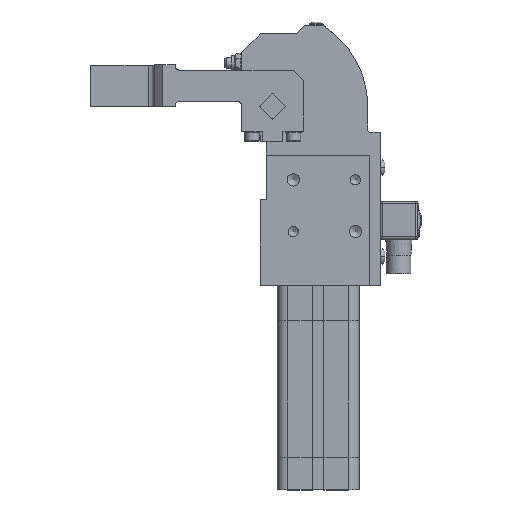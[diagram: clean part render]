
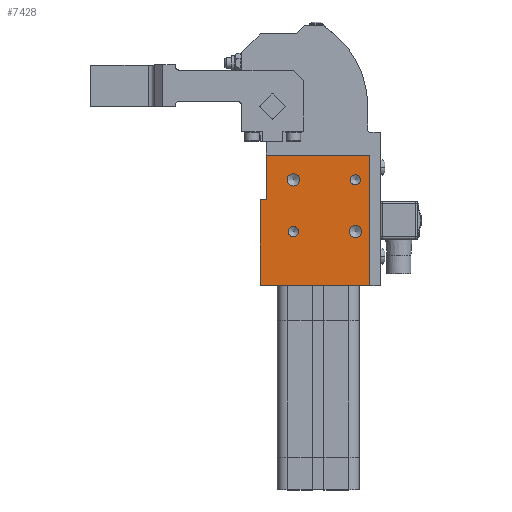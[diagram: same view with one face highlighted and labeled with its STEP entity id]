
A CAD part, top view. The second image highlights one B-rep face of the part: STEP entity #7428.
In plain terms, the highlighted planar face has unit normal (0, 0, 1).
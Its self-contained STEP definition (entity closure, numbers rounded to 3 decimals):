
#405=LINE('',#11721,#1100);
#526=LINE('',#12082,#1221);
#529=LINE('',#12087,#1224);
#530=LINE('',#12089,#1225);
#542=LINE('',#12114,#1237);
#543=LINE('',#12115,#1238);
#1100=VECTOR('',#9251,53.);
#1221=VECTOR('',#9524,21.5);
#1224=VECTOR('',#9529,3.);
#1225=VECTOR('',#9532,41.5);
#1237=VECTOR('',#9562,50.);
#1238=VECTOR('',#9563,63.);
#1735=PLANE('',#8034);
#1953=FACE_BOUND('',#2804,.T.);
#1954=FACE_BOUND('',#2805,.T.);
#1955=FACE_BOUND('',#2806,.T.);
#1956=FACE_BOUND('',#2807,.T.);
#2271=FACE_OUTER_BOUND('',#2803,.T.);
#2803=EDGE_LOOP('',(#6115,#6116,#6117,#6118,#6119,#6120));
#2804=EDGE_LOOP('',(#6121));
#2805=EDGE_LOOP('',(#6122));
#2806=EDGE_LOOP('',(#6123));
#2807=EDGE_LOOP('',(#6124));
#3142=CIRCLE('',#7873,3.);
#3144=CIRCLE('',#7877,3.);
#3146=CIRCLE('',#7881,2.48);
#3148=CIRCLE('',#7885,2.48);
#3542=VERTEX_POINT('',#11474);
#3544=VERTEX_POINT('',#11480);
#3546=VERTEX_POINT('',#11486);
#3548=VERTEX_POINT('',#11492);
#3590=VERTEX_POINT('',#11718);
#3591=VERTEX_POINT('',#11720);
#3669=VERTEX_POINT('',#12079);
#3670=VERTEX_POINT('',#12081);
#3671=VERTEX_POINT('',#12085);
#3675=VERTEX_POINT('',#12113);
#4342=EDGE_CURVE('',#3542,#3542,#3142,.T.);
#4344=EDGE_CURVE('',#3544,#3544,#3144,.T.);
#4346=EDGE_CURVE('',#3546,#3546,#3146,.T.);
#4348=EDGE_CURVE('',#3548,#3548,#3148,.T.);
#4398=EDGE_CURVE('',#3591,#3590,#405,.T.);
#4532=EDGE_CURVE('',#3669,#3670,#526,.T.);
#4535=EDGE_CURVE('',#3671,#3669,#529,.T.);
#4536=EDGE_CURVE('',#3591,#3671,#530,.T.);
#4548=EDGE_CURVE('',#3675,#3670,#542,.T.);
#4549=EDGE_CURVE('',#3675,#3590,#543,.T.);
#6115=ORIENTED_EDGE('',*,*,#4548,.T.);
#6116=ORIENTED_EDGE('',*,*,#4532,.F.);
#6117=ORIENTED_EDGE('',*,*,#4535,.F.);
#6118=ORIENTED_EDGE('',*,*,#4536,.F.);
#6119=ORIENTED_EDGE('',*,*,#4398,.T.);
#6120=ORIENTED_EDGE('',*,*,#4549,.F.);
#6121=ORIENTED_EDGE('',*,*,#4348,.T.);
#6122=ORIENTED_EDGE('',*,*,#4346,.T.);
#6123=ORIENTED_EDGE('',*,*,#4344,.T.);
#6124=ORIENTED_EDGE('',*,*,#4342,.T.);
#7428=ADVANCED_FACE('',(#2271,#1953,#1954,#1955,#1956),#1735,.T.);
#7873=AXIS2_PLACEMENT_3D('',#11475,#9087,#9088);
#7877=AXIS2_PLACEMENT_3D('',#11481,#9095,#9096);
#7881=AXIS2_PLACEMENT_3D('',#11487,#9103,#9104);
#7885=AXIS2_PLACEMENT_3D('',#11493,#9111,#9112);
#8034=AXIS2_PLACEMENT_3D('',#12112,#9560,#9561);
#9087=DIRECTION('center_axis',(0.,0.,-1.));
#9088=DIRECTION('ref_axis',(1.,0.,0.));
#9095=DIRECTION('center_axis',(0.,0.,-1.));
#9096=DIRECTION('ref_axis',(1.,0.,0.));
#9103=DIRECTION('center_axis',(0.,0.,-1.));
#9104=DIRECTION('ref_axis',(1.,0.,0.));
#9111=DIRECTION('center_axis',(0.,0.,-1.));
#9112=DIRECTION('ref_axis',(1.,0.,0.));
#9251=DIRECTION('',(1.,0.,0.));
#9524=DIRECTION('',(0.,1.,0.));
#9529=DIRECTION('',(1.,0.,0.));
#9532=DIRECTION('',(0.,1.,0.));
#9560=DIRECTION('center_axis',(0.,0.,1.));
#9561=DIRECTION('ref_axis',(1.,0.,0.));
#9562=DIRECTION('',(-1.,0.,0.));
#9563=DIRECTION('',(0.,-1.,0.));
#11474=CARTESIAN_POINT('',(-44.096,50.738,22.5));
#11475=CARTESIAN_POINT('Origin',(-41.096,50.738,22.5));
#11480=CARTESIAN_POINT('',(-74.096,75.738,22.5));
#11481=CARTESIAN_POINT('Origin',(-71.096,75.738,22.5));
#11486=CARTESIAN_POINT('',(-73.575,50.738,22.5));
#11487=CARTESIAN_POINT('Origin',(-71.096,50.738,22.5));
#11492=CARTESIAN_POINT('',(-43.575,75.738,22.5));
#11493=CARTESIAN_POINT('Origin',(-41.096,75.738,22.5));
#11718=CARTESIAN_POINT('',(-34.096,24.738,22.5));
#11720=CARTESIAN_POINT('',(-87.096,24.738,22.5));
#11721=CARTESIAN_POINT('',(-87.096,24.738,22.5));
#12079=CARTESIAN_POINT('',(-84.096,66.238,22.5));
#12081=CARTESIAN_POINT('',(-84.096,87.738,22.5));
#12082=CARTESIAN_POINT('',(-84.096,66.238,22.5));
#12085=CARTESIAN_POINT('',(-87.096,66.238,22.5));
#12087=CARTESIAN_POINT('',(-87.096,66.238,22.5));
#12089=CARTESIAN_POINT('',(-87.096,24.738,22.5));
#12112=CARTESIAN_POINT('Origin',(-63.659,86.089,22.5));
#12113=CARTESIAN_POINT('',(-34.096,87.738,22.5));
#12114=CARTESIAN_POINT('',(-34.096,87.738,22.5));
#12115=CARTESIAN_POINT('',(-34.096,87.738,22.5));
